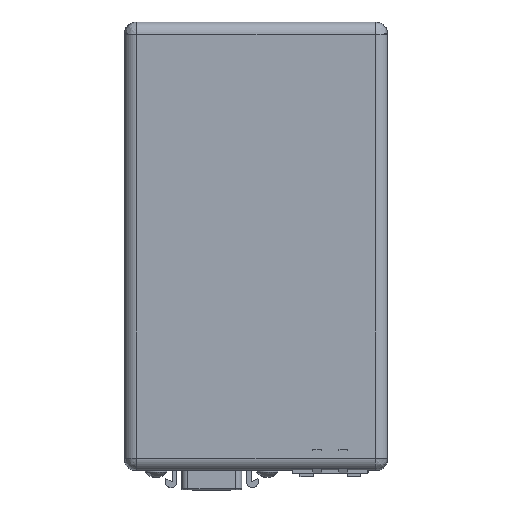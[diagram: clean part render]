
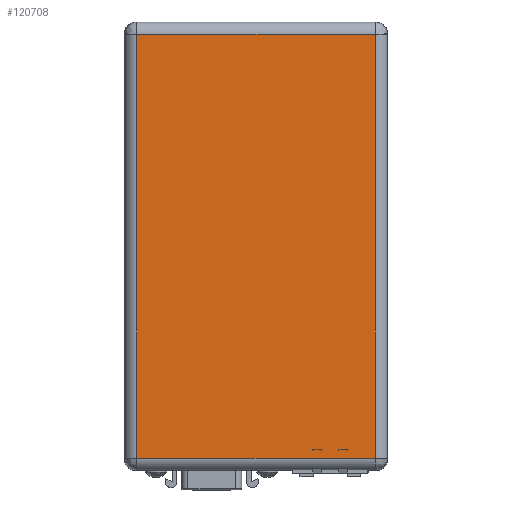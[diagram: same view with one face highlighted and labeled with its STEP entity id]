
A CAD part, top view. The second image highlights one B-rep face of the part: STEP entity #120708.
In plain terms, the highlighted planar face has unit normal (0, 0, 1).
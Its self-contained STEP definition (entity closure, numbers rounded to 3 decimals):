
#985 = EDGE_CURVE ( 'NONE', #76360, #26495, #160241, .T. ) ;
#1952 = DIRECTION ( 'NONE',  ( 0., 0., 1. ) ) ;
#11059 = VERTEX_POINT ( 'NONE', #164186 ) ;
#18336 = DIRECTION ( 'NONE',  ( -1., 0., 0. ) ) ;
#19958 = ORIENTED_EDGE ( 'NONE', *, *, #61895, .T. ) ;
#22980 = ORIENTED_EDGE ( 'NONE', *, *, #53865, .T. ) ;
#25502 = DIRECTION ( 'NONE',  ( 0., -1., 0. ) ) ;
#26495 = VERTEX_POINT ( 'NONE', #106487 ) ;
#30870 = PLANE ( 'NONE',  #189454 ) ;
#47417 = LINE ( 'NONE', #75369, #116378 ) ;
#53865 = EDGE_CURVE ( 'NONE', #190075, #76360, #139019, .T. ) ;
#56644 = CARTESIAN_POINT ( 'NONE',  ( -25.298, 18.948, 15.3 ) ) ;
#58887 = EDGE_CURVE ( 'NONE', #11059, #190075, #47417, .T. ) ;
#61895 = EDGE_CURVE ( 'NONE', #26495, #11059, #161910, .T. ) ;
#75369 = CARTESIAN_POINT ( 'NONE',  ( 25.298, 18.948, 15.3 ) ) ;
#75664 = CARTESIAN_POINT ( 'NONE',  ( 25.298, -71.018, 15.3 ) ) ;
#76360 = VERTEX_POINT ( 'NONE', #146450 ) ;
#80472 = CARTESIAN_POINT ( 'NONE',  ( 25.298, 18.948, 15.3 ) ) ;
#81083 = ORIENTED_EDGE ( 'NONE', *, *, #985, .T. ) ;
#82144 = VECTOR ( 'NONE', #134828, 1000. ) ;
#88463 = VECTOR ( 'NONE', #168423, 1000. ) ;
#89854 = CARTESIAN_POINT ( 'NONE',  ( 25.298, 18.948, 15.3 ) ) ;
#103575 = EDGE_LOOP ( 'NONE', ( #22980, #81083, #19958, #138418 ) ) ;
#104649 = DIRECTION ( 'NONE',  ( 1., 0., 0. ) ) ;
#106487 = CARTESIAN_POINT ( 'NONE',  ( 25.298, -71.018, 15.3 ) ) ;
#116378 = VECTOR ( 'NONE', #18336, 1000. ) ;
#120708 = ADVANCED_FACE ( 'NONE', ( #147060 ), #30870, .T. ) ;
#134451 = VECTOR ( 'NONE', #25502, 1000. ) ;
#134828 = DIRECTION ( 'NONE',  ( 1., 0., 0. ) ) ;
#138418 = ORIENTED_EDGE ( 'NONE', *, *, #58887, .T. ) ;
#139019 = LINE ( 'NONE', #142896, #134451 ) ;
#142896 = CARTESIAN_POINT ( 'NONE',  ( -25.298, 18.948, 15.3 ) ) ;
#146450 = CARTESIAN_POINT ( 'NONE',  ( -25.298, -71.018, 15.3 ) ) ;
#147060 = FACE_OUTER_BOUND ( 'NONE', #103575, .T. ) ;
#160241 = LINE ( 'NONE', #75664, #82144 ) ;
#161910 = LINE ( 'NONE', #80472, #88463 ) ;
#164186 = CARTESIAN_POINT ( 'NONE',  ( 25.298, 18.948, 15.3 ) ) ;
#168423 = DIRECTION ( 'NONE',  ( 0., 1., 0. ) ) ;
#189454 = AXIS2_PLACEMENT_3D ( 'NONE', #89854, #1952, #104649 ) ;
#190075 = VERTEX_POINT ( 'NONE', #56644 ) ;
